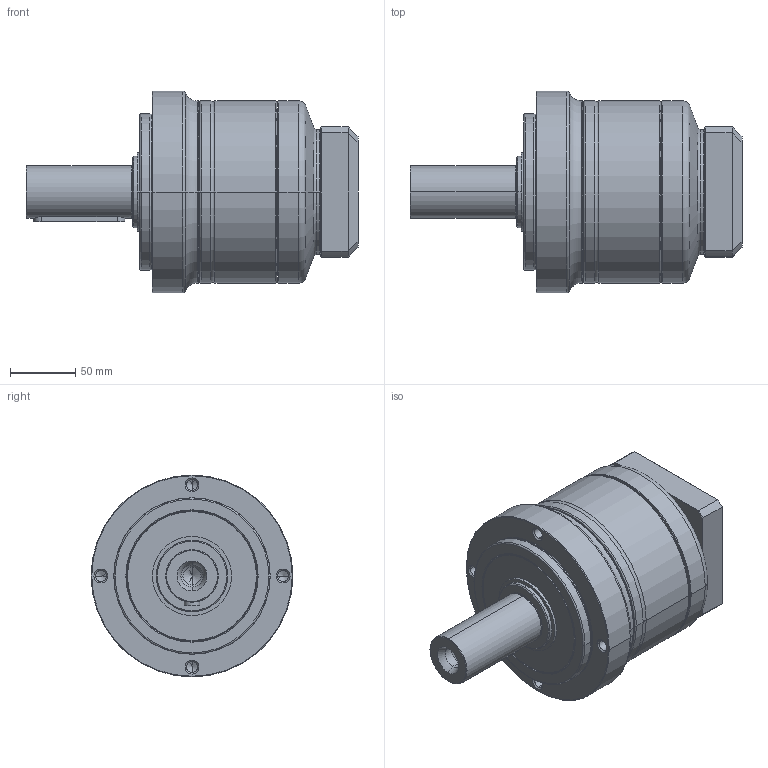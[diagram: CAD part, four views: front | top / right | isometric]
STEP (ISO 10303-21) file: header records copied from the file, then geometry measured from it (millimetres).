
FILE_DESCRIPTION((''),'2;1');
FILE_NAME('PE2-155_1ST_24-P0411500101_ASM','2017-05-31T',('d01943'),(''),'PRO/ENGINEER BY PARAMETRIC TECHNOLOGY CORPORATION, 2008410','PRO/ENGINEER BY PARAMETRIC TECHNOLOGY CORPORATION, 2008410','');
FILE_SCHEMA(('CONFIG_CONTROL_DESIGN'));
Length unit declared in the file: millimetre
Products named in the file (9): P1323510001; P0250500001; P1324500101; P0350501001; P0941501001; P0503500008; P0411500101; P1702500001; PE2-155_1ST_24-P0411500101_ASM
Assembly tree (8 placements, depth 2):
  PE2-155_1ST_24-P0411500101_ASM
    P1323510001
    P0250500001
    P1324500101
    P0350501001
    P0941501001
    P0503500008
    P0411500101
    P1702500001
Bounding box: 255 x 155 x 155 mm (x, y, z)
Volume: 1969149.8 mm3; surface area: 284524.6 mm2
Topology: 8 solids, 8 shells, 465 faces, 1019 edges, 584 vertices
Faces by surface type: cone 138, cylinder 136, torus 98, plane 77, bspline 16
Entity records: 17321 total; most frequent: CARTESIAN_POINT 6893, DIRECTION 2377, ORIENTED_EDGE 1974, AXIS2_PLACEMENT_3D 1021, EDGE_CURVE 987, VERTEX_POINT 584, CIRCLE 555, EDGE_LOOP 527
